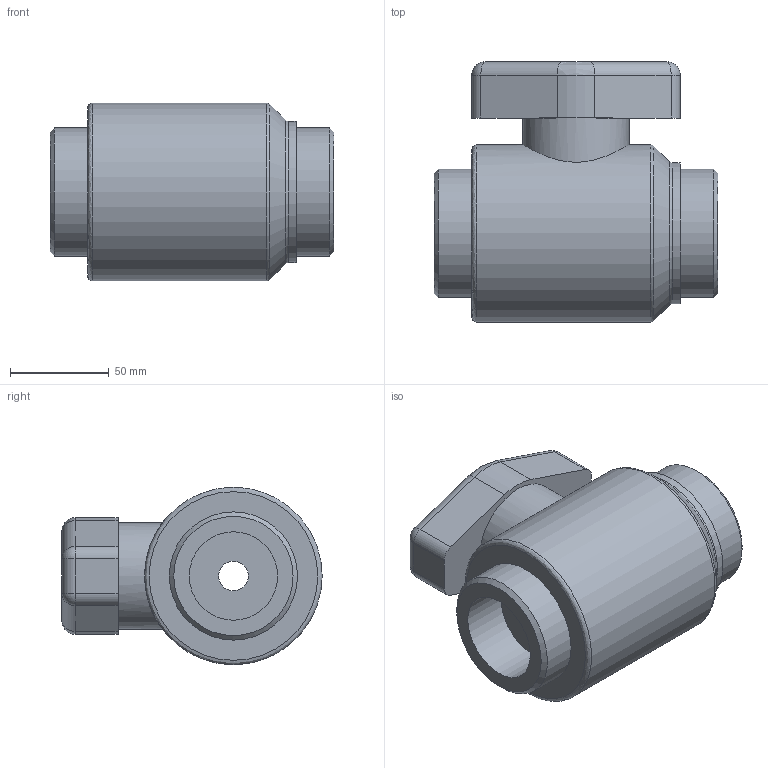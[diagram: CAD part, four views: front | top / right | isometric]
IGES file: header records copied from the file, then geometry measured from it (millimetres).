
Global section: file name: 0370300015_037030F015.ipt; native system: Autodesk Inventor 2015; preprocessor: unknown; author: KIM; date: 20190627.094230; units: millimetre
Bounding box: 144 x 132 x 90 mm (x, y, z)
Volume: 848863 mm3; surface area: 73180.9 mm2
Topology: 1 solids, 1 shells, 46 faces, 106 edges, 67 vertices
Faces by surface type: cylinder 17, plane 14, revolution 8, sphere 4, cone 3
Full cylindrical faces by diameter (mm): 53.814 x1, 65 x2, 71.5 x1, 90 x1
